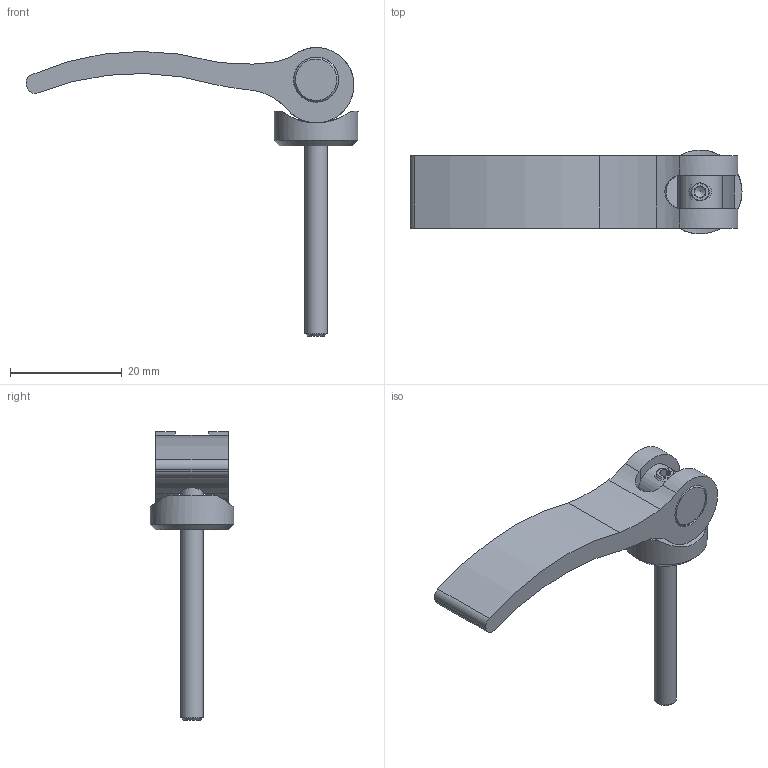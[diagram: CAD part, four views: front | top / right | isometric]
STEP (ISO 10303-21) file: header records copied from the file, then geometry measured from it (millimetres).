
FILE_DESCRIPTION(('STEP AP203'), '1');
FILE_NAME('À00360.11590415 _ Ýêñöåíòðèê 59 ìì', '', ('UNSPECIFIED'), ('UNSPECIFIED'), 'C3D Converter', 'C3D Toolkit', '');
FILE_SCHEMA(('CONFIG_CONTROL_DESIGN'));
Length unit declared in the file: millimetre
Products named in the file (5): А00360.59.03; А00360.59.02; А00360.59.01
Assembly tree (4 placements, depth 2):
  (unnamed)
    А00360.59.03
    А00360.59.02
    А00360.59.01
    (unnamed)
Bounding box: 59.48 x 14.99 x 51.75 mm (x, y, z)
Volume: 5078.7 mm3; surface area: 4212.9 mm2
Topology: 4 solids, 4 shells, 49 faces, 123 edges, 80 vertices
Faces by surface type: plane 24, cylinder 19, cone 6
Full cylindrical faces by diameter (mm): 3.242 x1, 4 x1, 5.5 x1, 8 x1, 8.1 x2, 15 x1
Entity records: 2552 total; most frequent: CARTESIAN_POINT 1037, DIRECTION 254, ORIENTED_EDGE 218, EDGE_CURVE 109, AXIS2_PLACEMENT_3D 105, VERTEX_POINT 79, EDGE_LOOP 68, FACE_BOUND 57
